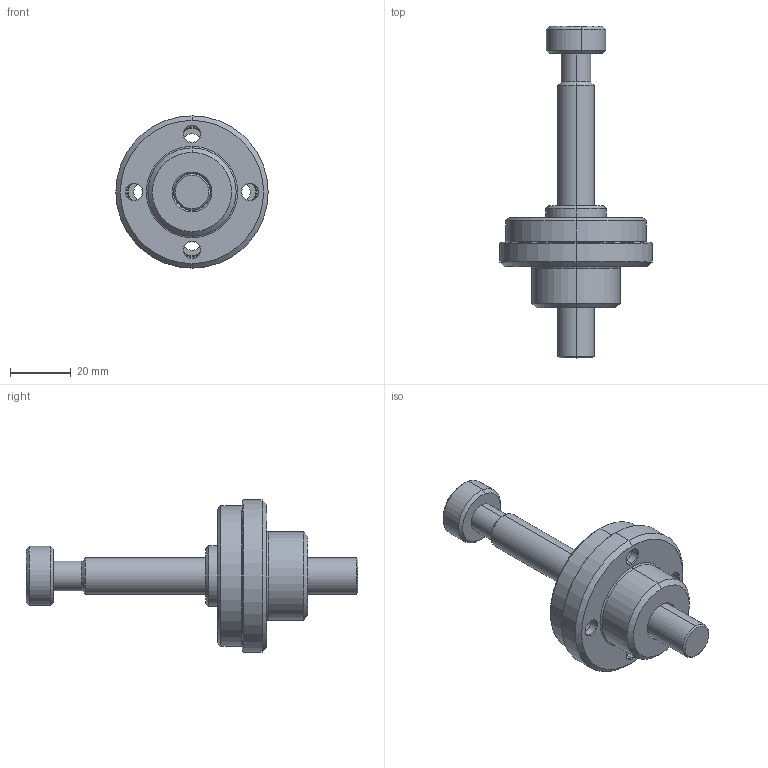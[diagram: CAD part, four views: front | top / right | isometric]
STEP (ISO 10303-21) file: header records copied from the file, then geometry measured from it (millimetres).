
FILE_DESCRIPTION (( 'STEP AP203' ), '1' );
FILE_NAME ('AS-12C.stp', '2019-04-02T12:13:56', ( '' ), ( '' ), 'SwSTEP 2.0', 'SolidWorks 2018', '' );
FILE_SCHEMA (( 'CONFIG_CONTROL_DESIGN' ));
Length unit declared in the file: millimetre
Products named in the file (6): AS12-TESTA STELO; AS12-CORPO; AS12-GHIERA; socket head cap screw_iso_ISO 4762 M6 x 25 - 25N; AS12-STELO100; AS-12C
Assembly tree (5 placements, depth 2):
  AS-12C
    AS12-CORPO
    AS12-GHIERA
    AS12-STELO100
    AS12-TESTA STELO
    socket head cap screw_iso_ISO 4762 M6 x 25 - 25N
Bounding box: 50 x 109 x 50 mm (x, y, z)
Volume: 44908.9 mm3; surface area: 20317.3 mm2
Topology: 8 solids, 8 shells, 216 faces, 492 edges, 302 vertices
Faces by surface type: cylinder 78, cone 70, plane 60, torus 8
Entity records: 6766 total; most frequent: DIRECTION 1208, CARTESIAN_POINT 1014, ORIENTED_EDGE 976, AXIS2_PLACEMENT_3D 496, EDGE_CURVE 488, VERTEX_POINT 302, CIRCLE 272, EDGE_LOOP 258
